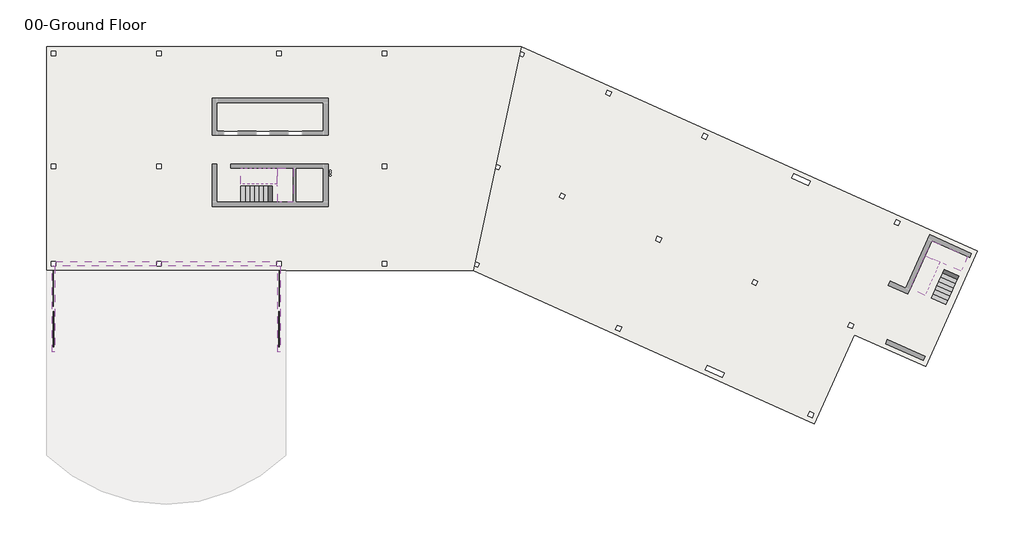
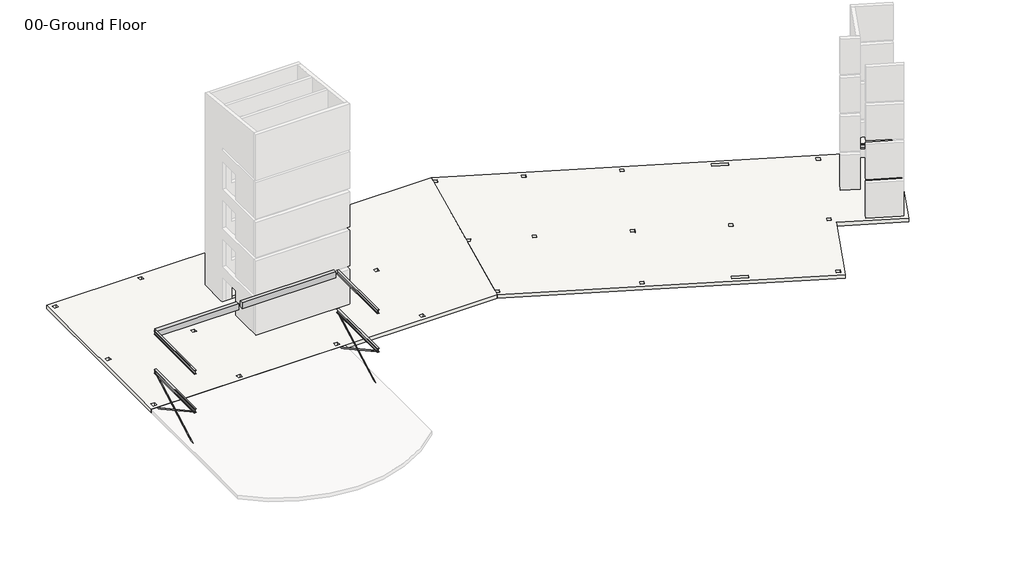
# One storey, part 2 of 2: 6 beams, 4 members, 4 slabs, 4 stair flights.
"""IFC4 building model written with IfcOpenShell, lengths in millimetres."""

from ifc_helpers import new_model, si_unit, frame, origin, place, context, project, spatial, polyline, circle_curve, outline, extrude, faceted_brep, transform, mapped, element, save
from ifc_brep_helpers import plane_surface, revolved_surface, advanced_brep
from components import w_shapes_w12x26_597c9bcb, w_shapes_w12x26_268029d0, flat_bars_fl_3_8x4_f1b121f7, flat_bars_fl_3_8x4_35c656aa, flat_bars_fl_3_8x4_188fb4ee, flat_bars_fl_3_8x4_168c0369

model = new_model("IFC4")

# Units and contexts
model_context = context("Model", 3, world=origin())
ifc_project = project(units=[si_unit("LENGTHUNIT", "METRE", prefix="MILLI")], contexts=[model_context])

# Site, building, storey
site = spatial("IfcSite", under=ifc_project)
building = spatial("IfcBuilding", under=site)
storey = spatial("IfcBuildingStorey", under=building, Name="00-Ground Floor", Elevation=0.0)

# Beams
placement = place(None, origin())
element("IfcBeam", 1, ObjectType="Concrete-Rectangular Beam : 12 x 24", at=placement, inside=storey, context=model_context, shape_type="SweptSolid", body=[
    extrude(outline(polyline([(152.4, -14147.8), (152.4, -13843.0), (6858.0, -13843.0), (6858.0, -14147.8), (152.4, -14147.8)])), frame((0.0, 0.0, 5892.8), z_axis=(0.0, 0.0, 1.0), x_axis=(1.0, 0.0, 0.0)), (0.0, 0.0, 1.0), 508.0),
])
element("IfcBeam", 2, ObjectType="Concrete-Rectangular Beam : 12 x 24", at=placement, inside=storey, context=model_context, shape_type="SweptSolid", body=[
    extrude(outline(polyline([(14846.3, -13843.0), (14846.3, -14147.8), (7162.8, -14147.8), (7162.8, -13843.0), (14846.3, -13843.0)])), frame((0.0, 0.0, 5892.8), z_axis=(0.0, 0.0, 1.0), x_axis=(1.0, 0.0, 0.0)), (0.0, 0.0, 1.0), 508.0),
])
w_shapes_w12x26_shape = w_shapes_w12x26_597c9bcb(model_context)
element("IfcBeam", 3, ObjectType="W Shapes : W12X26", at=placement, inside=storey, context=model_context, shape_type="MappedRepresentation", body=[
    mapped(w_shapes_w12x26_shape, transform((14998.7, -16998.95, 2994.66), x_axis=(0.0, -1.0, 0.0), y_axis=(1.0, 0.0, 0.0), z_axis=(0.0, 0.0, 1.0))),
])
element("IfcBeam", 4, ObjectType="W Shapes : W12X26", at=placement, inside=storey, context=model_context, shape_type="MappedRepresentation", body=[
    mapped(w_shapes_w12x26_shape, transform((14998.7, -16998.95, 6347.46), x_axis=(0.0, -1.0, 0.0), y_axis=(1.0, 0.0, 0.0), z_axis=(0.0, 0.0, 1.0))),
])
w_shapes_w12x26_2_shape = w_shapes_w12x26_268029d0(model_context)
element("IfcBeam", 5, ObjectType="W Shapes : W12X26", at=placement, inside=storey, context=model_context, shape_type="MappedRepresentation", body=[
    mapped(w_shapes_w12x26_2_shape, transform((0.0, -16998.95, 2994.66), x_axis=(0.0, 1.0, 0.0), y_axis=(-1.0, 0.0, 0.0), z_axis=(0.0, 0.0, 1.0))),
])
element("IfcBeam", 6, ObjectType="W Shapes : W12X26", at=placement, inside=storey, context=model_context, shape_type="MappedRepresentation", body=[
    mapped(w_shapes_w12x26_2_shape, transform((0.0, -16998.95, 6347.46), x_axis=(0.0, 1.0, 0.0), y_axis=(-1.0, 0.0, 0.0), z_axis=(0.0, 0.0, 1.0))),
])

# Members
flat_bars_fl_3_8x4_shape = flat_bars_fl_3_8x4_f1b121f7(model_context)
element("IfcMember", 7, ObjectType="Flat Bars : FL 3/8X4", at=placement, inside=storey, context=model_context, shape_type="MappedRepresentation", body=[
    mapped(flat_bars_fl_3_8x4_shape, transform((14998.7, -16998.95, 1344.93), x_axis=(0.0, -0.8764896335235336, 0.48142073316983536), y_axis=(1.0, 0.0, 0.0), z_axis=(0.0, 0.48142073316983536, 0.8764896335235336))),
])
flat_bars_fl_3_8x4_2_shape = flat_bars_fl_3_8x4_35c656aa(model_context)
element("IfcMember", 8, ObjectType="Flat Bars : FL 3/8X4", at=placement, inside=storey, context=model_context, shape_type="MappedRepresentation", body=[
    mapped(flat_bars_fl_3_8x4_2_shape, transform((14989.175, -16998.95, 1344.93), x_axis=(0.0, 0.8764896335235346, 0.4814207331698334), y_axis=(-1.0, 0.0, 0.0), z_axis=(0.0, -0.4814207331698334, 0.8764896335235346))),
])
flat_bars_fl_3_8x4_3_shape = flat_bars_fl_3_8x4_188fb4ee(model_context)
element("IfcMember", 9, ObjectType="Flat Bars : FL 3/8X4", at=placement, inside=storey, context=model_context, shape_type="MappedRepresentation", body=[
    mapped(flat_bars_fl_3_8x4_3_shape, transform((9.525, -16998.95, 1344.93), x_axis=(0.0, 0.8764896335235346, 0.4814207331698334), y_axis=(-1.0, 0.0, 0.0), z_axis=(0.0, -0.4814207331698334, 0.8764896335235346))),
])
flat_bars_fl_3_8x4_4_shape = flat_bars_fl_3_8x4_168c0369(model_context)
element("IfcMember", 10, ObjectType="Flat Bars : FL 3/8X4", at=placement, inside=storey, context=model_context, shape_type="MappedRepresentation", body=[
    mapped(flat_bars_fl_3_8x4_4_shape, transform((0.0, -16998.95, 1344.93), x_axis=(0.0, -0.8764896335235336, 0.48142073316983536), y_axis=(1.0, 0.0, 0.0), z_axis=(0.0, 0.48142073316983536, 0.8764896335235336))),
])

# Slabs
element("IfcSlab", 11, ObjectType="7\" Thickness", at=placement, inside=storey, context=model_context, shape_type="Brep", body=[
    faceted_brep([(14884.4, -8826.5, 1775.0117647), (14903.45, -8826.5, 1775.0117647), (14903.45, -9893.3, 1775.0117647), (15167.2458186, -9893.3, 1775.0117647), (15951.2, -9893.3, 1775.0117647), (15951.2, -7633.3081651, 1775.0117647), (14906.3541814, -7633.3081651, 1775.0117647), (14884.4, -7633.3081651, 1775.0117647), (14865.35, -7633.3081651, 1775.0117647), (14865.35, -8700.1081651, 1775.0117647), (14884.4, -8700.1081651, 1775.0117647), (14884.4, -8826.5, 1597.2117647), (14903.45, -8826.5, 1597.2117647), (14903.45, -8826.5, 1577.7882353), (14903.45, -8826.5, 1426.5203527), (14903.45, -9893.3, 1426.5203527), (14903.45, -9893.3, 1577.7882353), (15167.2458186, -9893.3, 1597.2117647), (15951.2, -9893.3, 1597.2117647), (15951.2, -7633.3081651, 1597.2117647), (14906.3541814, -7633.3081651, 1597.2117647), (14884.4, -7633.3081651, 1611.4174115), (14865.35, -7633.3081651, 1623.7438821), (14865.35, -8700.1081651, 1623.7438821), (14884.4, -8700.1081651, 1611.4174115), (14884.4, -8700.1081651, 1597.2117647), (14906.3541814, -8700.1081651, 1597.2117647), (15167.2458186, -8826.5, 1597.2117647)], [[[0, 1, 2, 3, 4, 5, 6, 7, 8, 9, 10]], [[1, 0, 11, 12]], [[2, 1, 12, 13, 14, 15, 16]], [[2, 16, 15, 17, 18, 4, 3]], [[5, 4, 18, 19]], [[5, 19, 20, 21, 7, 6]], [[8, 7, 21, 22]], [[9, 8, 22, 23]], [[10, 9, 23, 24]], [[0, 10, 24, 25, 11]], [[25, 26, 20, 19, 18, 17, 27, 12, 11]], [[26, 25, 24]], [[27, 17, 15, 14]], [[12, 27, 14, 13]], [[20, 26, 24, 23, 22, 21]]]),
])
element("IfcSlab", 12, ObjectType="7\" Thickness", at=placement, inside=storey, context=model_context, shape_type="Brep", body=[
    faceted_brep([(59335.95414, -14064.6614634, 1775.0117647), (59343.7599937, -14047.2841463, 1775.0117647), (60316.8897498, -14484.4119512, 1775.0117647), (60424.981695, -14243.7786923, 1775.0117647), (60746.211701, -13528.6595122, 1775.0117647), (58382.896579, -12467.0634146, 1775.0117647), (57954.7646338, -13420.1666736, 1775.0117647), (57945.7687742, -13440.1931707, 1775.0117647), (57937.9629205, -13457.5704878, 1775.0117647), (58911.0926766, -13894.6982927, 1775.0117647), (58918.8985303, -13877.3209756, 1775.0117647), (59335.95414, -14064.6614634, 1597.2117647), (59343.7599937, -14047.2841463, 1597.2117647), (59343.7599937, -14047.2841463, 1577.7882353), (59343.7599937, -14047.2841463, 1426.5203527), (60316.8897498, -14484.4119512, 1426.5203527), (60316.8897498, -14484.4119512, 1577.7882353), (60424.981695, -14243.7786923, 1597.2117647), (60746.211701, -13528.6595122, 1597.2117647), (58382.896579, -12467.0634146, 1597.2117647), (57954.7646338, -13420.1666736, 1597.2117647), (57945.7687742, -13440.1931707, 1611.4174115), (57937.9629205, -13457.5704878, 1623.7438821), (58911.0926766, -13894.6982927, 1623.7438821), (58918.8985303, -13877.3209756, 1611.4174115), (58918.8985303, -13877.3209756, 1597.2117647), (58927.8943899, -13857.2944785, 1597.2117647), (59451.8519389, -13806.6508874, 1597.2117647)], [[[0, 1, 2, 3, 4, 5, 6, 7, 8, 9, 10]], [[1, 0, 11, 12]], [[2, 1, 12, 13, 14, 15, 16]], [[2, 16, 15, 17, 18, 4, 3]], [[5, 4, 18, 19]], [[5, 19, 20, 21, 7, 6]], [[8, 7, 21, 22]], [[9, 8, 22, 23]], [[10, 9, 23, 24]], [[0, 10, 24, 25, 11]], [[25, 26, 20, 19, 18, 17, 27, 12, 11]], [[26, 25, 24]], [[27, 17, 15, 14]], [[12, 27, 14, 13]], [[20, 26, 24, 23, 22, 21]]]),
])
element("IfcSlab", 13, ObjectType="RC Slab 12\"", at=placement, inside=storey, context=model_context, shape_type="SolidModel", body=[
    faceted_brep([(10858.5, -3289.3, -304.8), (12738.1, -3289.3, -304.8), (12992.1, -3289.3, -304.8), (14871.7, -3289.3, -304.8), (15125.7, -3289.3, -304.8), (17945.1, -3289.3, -304.8), (17945.1, -5168.9, -304.8), (15125.7, -5168.9, -304.8), (14871.7, -5168.9, -304.8), (12992.1, -5168.9, -304.8), (12738.1, -5168.9, -304.8), (10858.5, -5168.9, -304.8), (17945.1, -3289.3, 0.0), (15125.7, -3289.3, 0.0), (14871.7, -3289.3, 0.0), (12992.1, -3289.3, 0.0), (12738.1, -3289.3, 0.0), (10858.5, -3289.3, 0.0), (10858.5, -5168.9, 0.0), (12738.1, -5168.9, 0.0), (12992.1, -5168.9, 0.0), (14871.7, -5168.9, 0.0), (15125.7, -5168.9, 0.0), (17945.1, -5168.9, 0.0)], [[[0, 1, 2, 3, 4, 5, 6, 7, 8, 9, 10, 11]], [[12, 13, 14, 15, 16, 17, 18, 19, 20, 21, 22, 23]], [[5, 4, 3, 2, 1, 0, 17, 16, 15, 14, 13, 12]], [[0, 11, 18, 17]], [[6, 23, 22, 21, 20, 19, 18, 11, 10, 9, 8, 7]], [[6, 5, 12, 23]]]),
    advanced_brep(
    [(-457.2, 457.2, -304.8), (7010.4, 457.2, -304.8), (14998.7, 457.2, -304.8), (22009.1, 457.2, -304.8), (31098.7387393, 457.2, -304.8), (30902.7958822, -457.2, -304.8), (28099.7244536, -13538.2, -304.8), (27903.7815965, -14452.6, -304.8), (22009.1, -14452.6, -304.8), (15455.9, -14452.6, -304.8), (-457.2, -14452.6, -304.8), (-457.2, -13995.4, -304.8), (-457.2, -7505.7, -304.8), (18347.8020543, -8109.4381113, -304.8), (18449.4020543, -8109.4381113, -304.8), (18347.8020543, -7957.0381113, -304.8), (18449.4020543, -7957.0381113, -304.8), (18347.8020543, -7804.6381113, -304.8), (18449.4020543, -7804.6381113, -304.8), (152.4, -152.4, -304.8), (152.4, 152.4, -304.8), (-152.4, 152.4, -304.8), (-152.4, -152.4, -304.8), (7162.8, -152.4, -304.8), (7162.8, 152.4, -304.8), (6858.0, 152.4, -304.8), (6858.0, -152.4, -304.8), (15151.1, -152.4, -304.8), (15151.1, 152.4, -304.8), (14846.3, 152.4, -304.8), (14846.3, -152.4, -304.8), (22161.5, -152.4, -304.8), (22161.5, 152.4, -304.8), (21856.7, 152.4, -304.8), (21856.7, -152.4, -304.8), (22161.5, -7658.1, -304.8), (22161.5, -7353.3, -304.8), (21856.7, -7353.3, -304.8), (21856.7, -7658.1, -304.8), (7162.8, -7658.1, -304.8), (7162.8, -7353.3, -304.8), (6858.0, -7353.3, -304.8), (6858.0, -7658.1, -304.8), (152.4, -7658.1, -304.8), (152.4, -7353.3, -304.8), (-152.4, -7353.3, -304.8), (-152.4, -7658.1, -304.8), (152.4, -14147.8, -304.8), (152.4, -13843.0, -304.8), (-152.4, -13843.0, -304.8), (-152.4, -14147.8, -304.8), (15151.1, -14147.8, -304.8), (15151.1, -13843.0, -304.8), (14846.3, -13843.0, -304.8), (14846.3, -14147.8, -304.8), (22161.5, -14147.8, -304.8), (22161.5, -13843.0, -304.8), (21856.7, -13843.0, -304.8), (21856.7, -14147.8, -304.8), (7162.8, -14147.8, -304.8), (7162.8, -13843.0, -304.8), (6858.0, -13843.0, -304.8), (6858.0, -14147.8, -304.8), (10553.7, -5422.9, -304.8), (18249.9, -5422.9, -304.8), (18249.9, -2984.5, -304.8), (15252.7, -2984.5, -304.8), (14744.7, -2984.5, -304.8), (10553.7, -2984.5, -304.8), (31098.7387393, 457.2, 0.0), (-457.2, 457.2, 0.0), (-457.2, -14452.6, 0.0), (15455.9, -14452.6, 0.0), (27903.7815965, -14452.6, 0.0), (18449.4020543, -8109.4381113, 0.0), (18347.8020543, -8109.4381113, 0.0), (18449.4020543, -7957.0381113, 0.0), (18347.8020543, -7957.0381113, 0.0), (18449.4020543, -7804.6381113, 0.0), (18347.8020543, -7804.6381113, 0.0), (18249.9, -2984.5, 0.0), (18249.9, -3289.3, 0.0), (18249.9, -5422.9, 0.0), (17945.1, -5422.9, 0.0), (10553.7, -5422.9, 0.0), (10553.7, -5168.9, 0.0), (10553.7, -2984.5, 0.0), (10858.5, -2984.5, 0.0), (152.4, 152.4, 0.0), (152.4, -152.4, 0.0), (-152.4, -152.4, 0.0), (-152.4, 152.4, 0.0), (7162.8, 152.4, 0.0), (7162.8, -152.4, 0.0), (6858.0, -152.4, 0.0), (6858.0, 152.4, 0.0), (15151.1, 152.4, 0.0), (15151.1, -152.4, 0.0), (14846.3, -152.4, 0.0), (14846.3, 152.4, 0.0), (22161.5, 152.4, 0.0), (22161.5, -152.4, 0.0), (21856.7, -152.4, 0.0), (21856.7, 152.4, 0.0), (22161.5, -7353.3, 0.0), (22161.5, -7658.1, 0.0), (21856.7, -7658.1, 0.0), (21856.7, -7353.3, 0.0), (7162.8, -7353.3, 0.0), (7162.8, -7658.1, 0.0), (6858.0, -7658.1, 0.0), (6858.0, -7353.3, 0.0), (152.4, -7353.3, 0.0), (152.4, -7658.1, 0.0), (-152.4, -7658.1, 0.0), (-152.4, -7353.3, 0.0), (152.4, -13843.0, 0.0), (152.4, -14147.8, 0.0), (-152.4, -14147.8, 0.0), (-152.4, -13843.0, 0.0), (15151.1, -13843.0, 0.0), (15151.1, -14147.8, 0.0), (14846.3, -14147.8, 0.0), (14846.3, -13843.0, 0.0), (22161.5, -13843.0, 0.0), (22161.5, -14147.8, 0.0), (21856.7, -14147.8, 0.0), (21856.7, -13843.0, 0.0), (7162.8, -13843.0, 0.0), (7162.8, -14147.8, 0.0), (6858.0, -14147.8, 0.0), (6858.0, -13843.0, 0.0)],
    [
        (0, 1),
        (1, 2),
        (2, 3),
        (3, 4),
        (4, 5),
        (5, 6),
        (6, 7),
        (7, 8),
        (8, 9),
        (9, 10),
        (10, 11),
        (11, 12),
        (12, 0),
        (13, 14, circle_curve(frame((18398.6020543, -8109.4381113, -304.8), z_axis=(0.0, 0.0, 1.0), x_axis=(1.0, 0.0, 0.0)), 50.8)),
        (14, 13, circle_curve(frame((18398.6020543, -8109.4381113, -304.8), z_axis=(0.0, 0.0, 1.0), x_axis=(1.0, 0.0, 0.0)), 50.8)),
        (15, 16, circle_curve(frame((18398.6020543, -7957.0381113, -304.8), z_axis=(0.0, 0.0, 1.0), x_axis=(1.0, 0.0, 0.0)), 50.8)),
        (16, 15, circle_curve(frame((18398.6020543, -7957.0381113, -304.8), z_axis=(0.0, 0.0, 1.0), x_axis=(1.0, 0.0, 0.0)), 50.8)),
        (17, 18, circle_curve(frame((18398.6020543, -7804.6381113, -304.8), z_axis=(0.0, 0.0, 1.0), x_axis=(1.0, 0.0, 0.0)), 50.8)),
        (18, 17, circle_curve(frame((18398.6020543, -7804.6381113, -304.8), z_axis=(0.0, 0.0, 1.0), x_axis=(1.0, 0.0, 0.0)), 50.8)),
        (19, 20),
        (20, 21),
        (21, 22),
        (22, 19),
        (23, 24),
        (24, 25),
        (25, 26),
        (26, 23),
        (27, 28),
        (28, 29),
        (29, 30),
        (30, 27),
        (31, 32),
        (32, 33),
        (33, 34),
        (34, 31),
        (35, 36),
        (36, 37),
        (37, 38),
        (38, 35),
        (39, 40),
        (40, 41),
        (41, 42),
        (42, 39),
        (43, 44),
        (44, 45),
        (45, 46),
        (46, 43),
        (47, 48),
        (48, 49),
        (49, 50),
        (50, 47),
        (51, 52),
        (52, 53),
        (53, 54),
        (54, 51),
        (55, 56),
        (56, 57),
        (57, 58),
        (58, 55),
        (59, 60),
        (60, 61),
        (61, 62),
        (62, 59),
        (63, 64),
        (64, 65),
        (65, 66),
        (66, 67),
        (67, 68),
        (68, 63),
        (69, 70),
        (70, 71),
        (71, 72),
        (72, 73),
        (73, 69),
        (74, 75, circle_curve(frame((18398.6020543, -8109.4381113, 0.0), z_axis=(0.0, 0.0, -1.0), x_axis=(1.0, 0.0, 0.0)), 50.8)),
        (75, 74, circle_curve(frame((18398.6020543, -8109.4381113, 0.0), z_axis=(0.0, 0.0, -1.0), x_axis=(1.0, 0.0, 0.0)), 50.8)),
        (76, 77, circle_curve(frame((18398.6020543, -7957.0381113, 0.0), z_axis=(0.0, 0.0, -1.0), x_axis=(1.0, 0.0, 0.0)), 50.8)),
        (77, 76, circle_curve(frame((18398.6020543, -7957.0381113, 0.0), z_axis=(0.0, 0.0, -1.0), x_axis=(1.0, 0.0, 0.0)), 50.8)),
        (78, 79, circle_curve(frame((18398.6020543, -7804.6381113, 0.0), z_axis=(0.0, 0.0, -1.0), x_axis=(1.0, 0.0, 0.0)), 50.8)),
        (79, 78, circle_curve(frame((18398.6020543, -7804.6381113, 0.0), z_axis=(0.0, 0.0, -1.0), x_axis=(1.0, 0.0, 0.0)), 50.8)),
        (80, 81),
        (81, 82),
        (82, 83),
        (83, 84),
        (84, 85),
        (85, 86),
        (86, 87),
        (87, 80),
        (88, 89),
        (89, 90),
        (90, 91),
        (91, 88),
        (92, 93),
        (93, 94),
        (94, 95),
        (95, 92),
        (96, 97),
        (97, 98),
        (98, 99),
        (99, 96),
        (100, 101),
        (101, 102),
        (102, 103),
        (103, 100),
        (104, 105),
        (105, 106),
        (106, 107),
        (107, 104),
        (108, 109),
        (109, 110),
        (110, 111),
        (111, 108),
        (112, 113),
        (113, 114),
        (114, 115),
        (115, 112),
        (116, 117),
        (117, 118),
        (118, 119),
        (119, 116),
        (120, 121),
        (121, 122),
        (122, 123),
        (123, 120),
        (124, 125),
        (125, 126),
        (126, 127),
        (127, 124),
        (128, 129),
        (129, 130),
        (130, 131),
        (131, 128),
        (0, 70),
        (69, 4),
        (73, 7),
        (71, 10),
        (13, 75),
        (74, 14),
        (15, 77),
        (76, 16),
        (17, 79),
        (78, 18),
        (65, 80),
        (86, 68),
        (64, 82),
        (84, 63),
        (19, 89),
        (88, 20),
        (22, 90),
        (21, 91),
        (23, 93),
        (92, 24),
        (26, 94),
        (25, 95),
        (27, 97),
        (96, 28),
        (30, 98),
        (29, 99),
        (31, 101),
        (100, 32),
        (34, 102),
        (33, 103),
        (35, 105),
        (104, 36),
        (38, 106),
        (37, 107),
        (39, 109),
        (108, 40),
        (42, 110),
        (41, 111),
        (43, 113),
        (112, 44),
        (46, 114),
        (45, 115),
        (47, 117),
        (116, 48),
        (50, 118),
        (49, 119),
        (51, 121),
        (120, 52),
        (54, 122),
        (53, 123),
        (55, 125),
        (124, 56),
        (58, 126),
        (57, 127),
        (59, 129),
        (128, 60),
        (62, 130),
        (61, 131),
    ],
    [
        plane_surface(frame((0.0, 457.2, -304.8), z_axis=(0.0, 0.0, -1.0), x_axis=(1.0, 0.0, 0.0))),
        plane_surface(frame((0.0, 457.2, 0.0), z_axis=(0.0, 0.0, 1.0), x_axis=(-1.0, 0.0, 0.0))),
        plane_surface(frame((-457.2, 457.2, -304.8), z_axis=(0.0, 1.0, 0.0), x_axis=(0.0, 0.0, 1.0))),
        plane_surface(frame((31098.7387393, 457.2, -304.8), z_axis=(0.9778024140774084, -0.2095290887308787, 0.0), x_axis=(0.0, 0.0, 1.0))),
        plane_surface(frame((27903.7815965, -14452.6, -304.8), z_axis=(0.0, -1.0, 0.0), x_axis=(0.0, 0.0, 1.0))),
        plane_surface(frame((-457.2, -14452.6, -304.8), z_axis=(-1.0, 0.0, 0.0), x_axis=(0.0, 0.0, 1.0))),
        revolved_surface(polyline([(18449.4020543, -8109.4381113, 0.0), (18449.4020543, -8109.4381113, -304.8)]), (18398.6020543, -8109.4381113, -609.6), (0.0, 0.0, 1.0)),
        revolved_surface(polyline([(18449.4020543, -7957.0381113, 0.0), (18449.4020543, -7957.0381113, -304.8)]), (18398.6020543, -7957.0381113, -609.6), (0.0, 0.0, 1.0)),
        revolved_surface(polyline([(18449.4020543, -7804.6381113, 0.0), (18449.4020543, -7804.6381113, -304.8)]), (18398.6020543, -7804.6381113, -609.6), (0.0, 0.0, 1.0)),
        plane_surface(frame((17694.8895727, -2984.5, -2133.6), z_axis=(0.0, -1.0, 0.0), x_axis=(-1.0, 0.0, 0.0))),
        plane_surface(frame((18249.9, -6083.3, -2133.6), z_axis=(-1.0, 0.0, 0.0), x_axis=(0.0, 1.0, 0.0))),
        plane_surface(frame((10553.7, -5829.3, -2133.6), z_axis=(1.0, 0.0, 0.0), x_axis=(0.0, -1.0, 0.0))),
        plane_surface(frame((10706.1, -5422.9, -2133.6), z_axis=(0.0, 1.0, 0.0), x_axis=(1.0, 0.0, 0.0))),
        plane_surface(frame((152.4, -152.4, 10058.4), z_axis=(-1.0, 0.0, 0.0), x_axis=(0.0, 0.0, -1.0))),
        plane_surface(frame((-152.4, -152.4, 10058.4), z_axis=(0.0, 1.0, 0.0), x_axis=(0.0, 0.0, -1.0))),
        plane_surface(frame((-152.4, 152.4, 10058.4), z_axis=(1.0, 0.0, 0.0), x_axis=(0.0, 0.0, -1.0))),
        plane_surface(frame((152.4, 152.4, 10058.4), z_axis=(0.0, -1.0, 0.0), x_axis=(0.0, 0.0, -1.0))),
        plane_surface(frame((7162.8, -152.4, 10058.4), z_axis=(-1.0, 0.0, 0.0), x_axis=(0.0, 0.0, -1.0))),
        plane_surface(frame((6858.0, -152.4, 10058.4), z_axis=(0.0, 1.0, 0.0), x_axis=(0.0, 0.0, -1.0))),
        plane_surface(frame((6858.0, 152.4, 10058.4), z_axis=(1.0, 0.0, 0.0), x_axis=(0.0, 0.0, -1.0))),
        plane_surface(frame((7162.8, 152.4, 10058.4), z_axis=(0.0, -1.0, 0.0), x_axis=(0.0, 0.0, -1.0))),
        plane_surface(frame((15151.1, -152.4, 10058.4), z_axis=(-1.0, 0.0, 0.0), x_axis=(0.0, 0.0, -1.0))),
        plane_surface(frame((14846.3, -152.4, 10058.4), z_axis=(0.0, 1.0, 0.0), x_axis=(0.0, 0.0, -1.0))),
        plane_surface(frame((14846.3, 152.4, 10058.4), z_axis=(1.0, 0.0, 0.0), x_axis=(0.0, 0.0, -1.0))),
        plane_surface(frame((15151.1, 152.4, 10058.4), z_axis=(0.0, -1.0, 0.0), x_axis=(0.0, 0.0, -1.0))),
        plane_surface(frame((22161.5, -152.4, 10058.4), z_axis=(-1.0, 0.0, 0.0), x_axis=(0.0, 0.0, -1.0))),
        plane_surface(frame((21856.7, -152.4, 10058.4), z_axis=(0.0, 1.0, 0.0), x_axis=(0.0, 0.0, -1.0))),
        plane_surface(frame((21856.7, 152.4, 10058.4), z_axis=(1.0, 0.0, 0.0), x_axis=(0.0, 0.0, -1.0))),
        plane_surface(frame((22161.5, 152.4, 10058.4), z_axis=(0.0, -1.0, 0.0), x_axis=(0.0, 0.0, -1.0))),
        plane_surface(frame((22161.5, -7658.1, 10058.4), z_axis=(-1.0, 0.0, 0.0), x_axis=(0.0, 0.0, -1.0))),
        plane_surface(frame((21856.7, -7658.1, 10058.4), z_axis=(0.0, 1.0, 0.0), x_axis=(0.0, 0.0, -1.0))),
        plane_surface(frame((21856.7, -7353.3, 10058.4), z_axis=(1.0, 0.0, 0.0), x_axis=(0.0, 0.0, -1.0))),
        plane_surface(frame((22161.5, -7353.3, 10058.4), z_axis=(0.0, -1.0, 0.0), x_axis=(0.0, 0.0, -1.0))),
        plane_surface(frame((7162.8, -7658.1, 10058.4), z_axis=(-1.0, 0.0, 0.0), x_axis=(0.0, 0.0, -1.0))),
        plane_surface(frame((6858.0, -7658.1, 10058.4), z_axis=(0.0, 1.0, 0.0), x_axis=(0.0, 0.0, -1.0))),
        plane_surface(frame((6858.0, -7353.3, 10058.4), z_axis=(1.0, 0.0, 0.0), x_axis=(0.0, 0.0, -1.0))),
        plane_surface(frame((7162.8, -7353.3, 10058.4), z_axis=(0.0, -1.0, 0.0), x_axis=(0.0, 0.0, -1.0))),
        plane_surface(frame((152.4, -7658.1, 10058.4), z_axis=(-1.0, 0.0, 0.0), x_axis=(0.0, 0.0, -1.0))),
        plane_surface(frame((-152.4, -7658.1, 10058.4), z_axis=(0.0, 1.0, 0.0), x_axis=(0.0, 0.0, -1.0))),
        plane_surface(frame((-152.4, -7353.3, 10058.4), z_axis=(1.0, 0.0, 0.0), x_axis=(0.0, 0.0, -1.0))),
        plane_surface(frame((152.4, -7353.3, 10058.4), z_axis=(0.0, -1.0, 0.0), x_axis=(0.0, 0.0, -1.0))),
        plane_surface(frame((152.4, -14147.8, 10058.4), z_axis=(-1.0, 0.0, 0.0), x_axis=(0.0, 0.0, -1.0))),
        plane_surface(frame((-152.4, -14147.8, 10058.4), z_axis=(0.0, 1.0, 0.0), x_axis=(0.0, 0.0, -1.0))),
        plane_surface(frame((-152.4, -13843.0, 10058.4), z_axis=(1.0, 0.0, 0.0), x_axis=(0.0, 0.0, -1.0))),
        plane_surface(frame((152.4, -13843.0, 10058.4), z_axis=(0.0, -1.0, 0.0), x_axis=(0.0, 0.0, -1.0))),
        plane_surface(frame((15151.1, -14147.8, 10058.4), z_axis=(-1.0, 0.0, 0.0), x_axis=(0.0, 0.0, -1.0))),
        plane_surface(frame((14846.3, -14147.8, 10058.4), z_axis=(0.0, 1.0, 0.0), x_axis=(0.0, 0.0, -1.0))),
        plane_surface(frame((14846.3, -13843.0, 10058.4), z_axis=(1.0, 0.0, 0.0), x_axis=(0.0, 0.0, -1.0))),
        plane_surface(frame((15151.1, -13843.0, 10058.4), z_axis=(0.0, -1.0, 0.0), x_axis=(0.0, 0.0, -1.0))),
        plane_surface(frame((22161.5, -14147.8, 10058.4), z_axis=(-1.0, 0.0, 0.0), x_axis=(0.0, 0.0, -1.0))),
        plane_surface(frame((21856.7, -14147.8, 10058.4), z_axis=(0.0, 1.0, 0.0), x_axis=(0.0, 0.0, -1.0))),
        plane_surface(frame((21856.7, -13843.0, 10058.4), z_axis=(1.0, 0.0, 0.0), x_axis=(0.0, 0.0, -1.0))),
        plane_surface(frame((22161.5, -13843.0, 10058.4), z_axis=(0.0, -1.0, 0.0), x_axis=(0.0, 0.0, -1.0))),
        plane_surface(frame((7162.8, -14147.8, 10058.4), z_axis=(-1.0, 0.0, 0.0), x_axis=(0.0, 0.0, -1.0))),
        plane_surface(frame((6858.0, -14147.8, 10058.4), z_axis=(0.0, 1.0, 0.0), x_axis=(0.0, 0.0, -1.0))),
        plane_surface(frame((6858.0, -13843.0, 10058.4), z_axis=(1.0, 0.0, 0.0), x_axis=(0.0, 0.0, -1.0))),
        plane_surface(frame((7162.8, -13843.0, 10058.4), z_axis=(0.0, -1.0, 0.0), x_axis=(0.0, 0.0, -1.0))),
    ],
    [
        (0, [[1, 2, 3, 4, 5, 6, 7, 8, 9, 10, 11, 12, 13], [14, 15], [16, 17], [18, 19], [20, 21, 22, 23], [24, 25, 26, 27], [28, 29, 30, 31], [32, 33, 34, 35], [36, 37, 38, 39], [40, 41, 42, 43], [44, 45, 46, 47], [48, 49, 50, 51], [52, 53, 54, 55], [56, 57, 58, 59], [60, 61, 62, 63], [64, 65, 66, 67, 68, 69]]),
        (1, [[70, 71, 72, 73, 74], [75, 76], [77, 78], [79, 80], [81, 82, 83, 84, 85, 86, 87, 88], [89, 90, 91, 92], [93, 94, 95, 96], [97, 98, 99, 100], [101, 102, 103, 104], [105, 106, 107, 108], [109, 110, 111, 112], [113, 114, 115, 116], [117, 118, 119, 120], [121, 122, 123, 124], [125, 126, 127, 128], [129, 130, 131, 132]]),
        (2, [[-4, -3, -2, -1, 133, -70, 134]]),
        (3, [[-7, -6, -5, -134, -74, 135]]),
        (4, [[-10, -9, -8, -135, -73, -72, 136]]),
        (5, [[-13, -12, -11, -136, -71, -133]]),
        (6, [[137, -75, 138, -14]]),
        (6, [[-137, -15, -138, -76]]),
        (7, [[139, -77, 140, -16]]),
        (7, [[-139, -17, -140, -78]]),
        (8, [[141, -79, 142, -18]]),
        (8, [[-141, -19, -142, -80]]),
        (9, [[143, -88, -87, 144, -68, -67, -66]]),
        (10, [[-143, -65, 145, -82, -81]]),
        (11, [[-144, -86, -85, 146, -69]]),
        (12, [[-146, -84, -83, -145, -64]]),
        (13, [[147, -89, 148, -20]]),
        (14, [[-147, -23, 149, -90]]),
        (15, [[-149, -22, 150, -91]]),
        (16, [[-150, -21, -148, -92]]),
        (17, [[151, -93, 152, -24]]),
        (18, [[-151, -27, 153, -94]]),
        (19, [[-153, -26, 154, -95]]),
        (20, [[-154, -25, -152, -96]]),
        (21, [[155, -97, 156, -28]]),
        (22, [[-155, -31, 157, -98]]),
        (23, [[-157, -30, 158, -99]]),
        (24, [[-158, -29, -156, -100]]),
        (25, [[159, -101, 160, -32]]),
        (26, [[-159, -35, 161, -102]]),
        (27, [[-161, -34, 162, -103]]),
        (28, [[-162, -33, -160, -104]]),
        (29, [[163, -105, 164, -36]]),
        (30, [[-163, -39, 165, -106]]),
        (31, [[-165, -38, 166, -107]]),
        (32, [[-166, -37, -164, -108]]),
        (33, [[167, -109, 168, -40]]),
        (34, [[-167, -43, 169, -110]]),
        (35, [[-169, -42, 170, -111]]),
        (36, [[-170, -41, -168, -112]]),
        (37, [[171, -113, 172, -44]]),
        (38, [[-171, -47, 173, -114]]),
        (39, [[-173, -46, 174, -115]]),
        (40, [[-174, -45, -172, -116]]),
        (41, [[175, -117, 176, -48]]),
        (42, [[-175, -51, 177, -118]]),
        (43, [[-177, -50, 178, -119]]),
        (44, [[-178, -49, -176, -120]]),
        (45, [[179, -121, 180, -52]]),
        (46, [[-179, -55, 181, -122]]),
        (47, [[-181, -54, 182, -123]]),
        (48, [[-182, -53, -180, -124]]),
        (49, [[183, -125, 184, -56]]),
        (50, [[-183, -59, 185, -126]]),
        (51, [[-185, -58, 186, -127]]),
        (52, [[-186, -57, -184, -128]]),
        (53, [[187, -129, 188, -60]]),
        (54, [[-187, -63, 189, -130]]),
        (55, [[-189, -62, 190, -131]]),
        (56, [[-190, -61, -188, -132]]),
    ],
),
])
element("IfcSlab", 14, ObjectType="RC Slab 12\"", at=placement, inside=storey, context=model_context, shape_type="Brep", body=[
    faceted_brep([(61413.0546278, -13159.9258537, -304.8), (57962.8673107, -20840.7, -304.8), (53236.2370668, -18717.5078049, -304.8), (50577.0429205, -24637.3804878, -304.8), (37370.2819449, -18704.9317073, -304.8), (27903.7815965, -14452.6, -304.8), (27969.0988162, -14147.786308, -304.8), (28217.3432689, -14259.3121951, -304.8), (28342.2369275, -13981.275122, -304.8), (28034.4045592, -13843.0124873, -304.8), (28099.7244536, -13538.2, -304.8), (29359.7488162, -7658.086308, -304.8), (29607.9932689, -7769.6121951, -304.8), (29732.8869275, -7491.575122, -304.8), (29425.0545592, -7353.3124873, -304.8), (30902.7958822, -457.2, -304.8), (30968.1131019, -152.386308, -304.8), (31216.3575546, -263.9121951, -304.8), (31341.2512132, 14.124878, -304.8), (31033.4188449, 152.3875127, -304.8), (31098.7387393, 457.2, -304.8), (43479.6634083, -5104.284878, -304.8), (37098.9356034, -2572.2146341, -304.8), (36820.8985303, -2447.3209756, -304.8), (36696.0048717, -2725.3580488, -304.8), (36974.0419449, -2850.2517073, -304.8), (43493.7882864, -5444.7687805, -304.8), (43215.7512132, -5319.875122, -304.8), (43090.8575546, -5597.9121951, -304.8), (43368.8946278, -5722.8058537, -304.8), (56283.4936522, -11189.8770732, -304.8), (56005.456579, -11064.9834146, -304.8), (55880.5629205, -11343.0204878, -304.8), (56158.5999937, -11467.9141463, -304.8), (53207.9873107, -18036.54, -304.8), (52929.9502376, -17911.6463415, -304.8), (52805.056579, -18189.6834146, -304.8), (53083.0936522, -18314.5770732, -304.8), (50548.7931644, -23956.4126829, -304.8), (50270.7560912, -23831.5190244, -304.8), (50145.8624327, -24109.5560976, -304.8), (50423.8995059, -24234.4497561, -304.8), (37759.0877985, -18211.3043902, -304.8), (37481.0507254, -18086.4107317, -304.8), (37356.1570668, -18364.4478049, -304.8), (37634.19414, -18489.3414634, -304.8), (34023.429262, -9418.877561, -304.8), (33745.3921888, -9293.9839024, -304.8), (33620.4985303, -9572.0209756, -304.8), (33898.5356034, -9696.9146341, -304.8), (40418.2819449, -12291.4317073, -304.8), (40140.2448717, -12166.5380488, -304.8), (40015.3512132, -12444.575122, -304.8), (40293.3882864, -12569.4687805, -304.8), (46813.1346278, -15163.9858537, -304.8), (46535.0975546, -15039.0921951, -304.8), (46410.2038961, -15317.1292683, -304.8), (46688.2409693, -15442.0229268, -304.8), (43333.95414, -21049.6614634, -304.8), (44446.1024327, -21549.2360976, -304.8), (44570.9960912, -21271.1990244, -304.8), (43458.8477985, -20771.6243902, -304.8), (49068.6546278, -8283.1258537, -304.8), (50180.8029205, -8782.7004878, -304.8), (50305.696579, -8504.6634146, -304.8), (49193.5482864, -8005.0887805, -304.8), (57962.8673107, -20840.7, 0.0), (61413.0546278, -13159.9258537, 0.0), (31098.7387393, 457.2, 0.0), (31033.4244536, 152.4, 0.0), (31341.2512132, 14.124878, 0.0), (31216.3575546, -263.9121951, 0.0), (30968.1131019, -152.386308, 0.0), (29425.0601679, -7353.3, 0.0), (29732.8869275, -7491.575122, 0.0), (29607.9932689, -7769.6121951, 0.0), (29359.7488162, -7658.086308, 0.0), (28034.4101679, -13843.0, 0.0), (28342.2369275, -13981.275122, 0.0), (28217.3432689, -14259.3121951, 0.0), (27969.0988162, -14147.786308, 0.0), (27903.7815965, -14452.6, 0.0), (50577.0429205, -24637.3804878, 0.0), (53236.2370668, -18717.5078049, 0.0), (36820.8985303, -2447.3209756, 0.0), (37098.9356034, -2572.2146341, 0.0), (36974.0419449, -2850.2517073, 0.0), (36696.0048717, -2725.3580488, 0.0), (43215.7512132, -5319.875122, 0.0), (43493.7882864, -5444.7687805, 0.0), (43368.8946278, -5722.8058537, 0.0), (43090.8575546, -5597.9121951, 0.0), (56005.456579, -11064.9834146, 0.0), (56283.4936522, -11189.8770732, 0.0), (56158.5999937, -11467.9141463, 0.0), (55880.5629205, -11343.0204878, 0.0), (52929.9502376, -17911.6463415, 0.0), (53207.9873107, -18036.54, 0.0), (53083.0936522, -18314.5770732, 0.0), (52805.056579, -18189.6834146, 0.0), (50270.7560912, -23831.5190244, 0.0), (50548.7931644, -23956.4126829, 0.0), (50423.8995059, -24234.4497561, 0.0), (50145.8624327, -24109.5560976, 0.0), (37481.0507254, -18086.4107317, 0.0), (37759.0877985, -18211.3043902, 0.0), (37634.19414, -18489.3414634, 0.0), (37356.1570668, -18364.4478049, 0.0), (33745.3921888, -9293.9839024, 0.0), (34023.429262, -9418.877561, 0.0), (33898.5356034, -9696.9146341, 0.0), (33620.4985303, -9572.0209756, 0.0), (40140.2448717, -12166.5380488, 0.0), (40418.2819449, -12291.4317073, 0.0), (40293.3882864, -12569.4687805, 0.0), (40015.3512132, -12444.575122, 0.0), (46535.0975546, -15039.0921951, 0.0), (46813.1346278, -15163.9858537, 0.0), (46688.2409693, -15442.0229268, 0.0), (46410.2038961, -15317.1292683, 0.0), (44446.1024327, -21549.2360976, 0.0), (43333.95414, -21049.6614634, 0.0), (43458.8477985, -20771.6243902, 0.0), (44570.9960912, -21271.1990244, 0.0), (50180.8029205, -8782.7004878, 0.0), (49068.6546278, -8283.1258537, 0.0), (49193.5482864, -8005.0887805, 0.0), (50305.696579, -8504.6634146, 0.0)], [[[0, 1, 2, 3, 4, 5, 6, 7, 8, 9, 10, 11, 12, 13, 14, 15, 16, 17, 18, 19, 20, 21], [22, 23, 24, 25], [26, 27, 28, 29], [30, 31, 32, 33], [34, 35, 36, 37], [38, 39, 40, 41], [42, 43, 44, 45], [46, 47, 48, 49], [50, 51, 52, 53], [54, 55, 56, 57], [58, 59, 60, 61], [62, 63, 64, 65]], [[66, 67, 68, 69, 70, 71, 72, 73, 74, 75, 76, 77, 78, 79, 80, 81, 82, 83], [84, 85, 86, 87], [88, 89, 90, 91], [92, 93, 94, 95], [96, 97, 98, 99], [100, 101, 102, 103], [104, 105, 106, 107], [108, 109, 110, 111], [112, 113, 114, 115], [116, 117, 118, 119], [120, 121, 122, 123], [124, 125, 126, 127]], [[1, 0, 67, 66]], [[2, 1, 66, 83]], [[3, 2, 83, 82]], [[5, 4, 3, 82, 81]], [[5, 81, 80, 6]], [[68, 20, 19, 69]], [[9, 77, 76, 11, 10]], [[72, 16, 15, 14, 73]], [[0, 21, 20, 68, 67]], [[8, 78, 77, 9]], [[78, 8, 7, 79]], [[79, 7, 6, 80]], [[18, 70, 69, 19]], [[70, 18, 17, 71]], [[71, 17, 16, 72]], [[13, 74, 73, 14]], [[74, 13, 12, 75]], [[75, 12, 11, 76]], [[22, 85, 84, 23]], [[85, 22, 25, 86]], [[86, 25, 24, 87]], [[87, 24, 23, 84]], [[26, 89, 88, 27]], [[89, 26, 29, 90]], [[90, 29, 28, 91]], [[91, 28, 27, 88]], [[30, 93, 92, 31]], [[93, 30, 33, 94]], [[94, 33, 32, 95]], [[95, 32, 31, 92]], [[34, 97, 96, 35]], [[97, 34, 37, 98]], [[98, 37, 36, 99]], [[99, 36, 35, 96]], [[38, 101, 100, 39]], [[101, 38, 41, 102]], [[102, 41, 40, 103]], [[103, 40, 39, 100]], [[42, 105, 104, 43]], [[105, 42, 45, 106]], [[106, 45, 44, 107]], [[107, 44, 43, 104]], [[46, 109, 108, 47]], [[109, 46, 49, 110]], [[110, 49, 48, 111]], [[111, 48, 47, 108]], [[50, 113, 112, 51]], [[113, 50, 53, 114]], [[114, 53, 52, 115]], [[115, 52, 51, 112]], [[54, 117, 116, 55]], [[117, 54, 57, 118]], [[118, 57, 56, 119]], [[119, 56, 55, 116]], [[58, 121, 120, 59]], [[60, 123, 122, 61]], [[59, 120, 123, 60]], [[121, 58, 61, 122]], [[62, 125, 124, 63]], [[64, 127, 126, 65]], [[63, 124, 127, 64]], [[125, 62, 65, 126]]]),
])

# Stair flights
element("IfcStairFlight", 15, ObjectType="3/4\" Nosing", at=placement, inside=storey, context=model_context, shape_type="Brep", body=[
    faceted_brep([(12769.85, -8826.5, 197.2235294), (12465.05, -8826.5, 197.2235294), (12465.05, -9893.3, 197.2235294), (12769.85, -9893.3, 197.2235294), (12769.85, -8826.5, 45.9556468), (12698.8276368, -8826.5, 0.0), (12465.05, -8826.5, 0.0), (12465.05, -9893.3, 0.0), (12698.8276368, -9893.3, 0.0), (12769.85, -9893.3, 45.9556468), (13074.65, -8826.5, 394.4470588), (12769.85, -8826.5, 394.4470588), (12769.85, -9893.3, 394.4470588), (13074.65, -9893.3, 394.4470588), (13074.65, -8826.5, 243.1791762), (13074.65, -9893.3, 243.1791762), (13379.45, -8826.5, 591.6705882), (13074.65, -8826.5, 591.6705882), (13074.65, -9893.3, 591.6705882), (13379.45, -9893.3, 591.6705882), (13379.45, -8826.5, 440.4027056), (13379.45, -9893.3, 440.4027056), (13684.25, -8826.5, 788.8941176), (13379.45, -8826.5, 788.8941176), (13379.45, -9893.3, 788.8941176), (13684.25, -9893.3, 788.8941176), (13684.25, -8826.5, 637.626235), (13684.25, -9893.3, 637.626235), (13989.05, -8826.5, 986.1176471), (13684.25, -8826.5, 986.1176471), (13684.25, -9893.3, 986.1176471), (13989.05, -9893.3, 986.1176471), (13989.05, -8826.5, 834.8497644), (13989.05, -9893.3, 834.8497644), (14293.85, -8826.5, 1183.3411765), (13989.05, -8826.5, 1183.3411765), (13989.05, -9893.3, 1183.3411765), (14293.85, -9893.3, 1183.3411765), (14293.85, -8826.5, 1032.0732938), (14293.85, -9893.3, 1032.0732938), (14598.65, -8826.5, 1380.5647059), (14293.85, -8826.5, 1380.5647059), (14293.85, -9893.3, 1380.5647059), (14598.65, -9893.3, 1380.5647059), (14598.65, -8826.5, 1229.2968232), (14598.65, -9893.3, 1229.2968232), (14903.45, -8826.5, 1577.7882353), (14598.65, -8826.5, 1577.7882353), (14598.65, -9893.3, 1577.7882353), (14884.4, -9893.3, 1577.7882353), (14903.45, -9893.3, 1577.7882353), (14903.45, -8826.5, 1426.5203527), (14884.4, -9893.3, 1414.1938821), (14903.45, -9893.3, 1426.5203527)], [[[0, 1, 2, 3]], [[1, 0, 4, 5, 6]], [[2, 1, 6, 7]], [[3, 2, 7, 8, 9]], [[10, 11, 12, 13]], [[11, 10, 14, 4, 0]], [[0, 3, 12, 11]], [[13, 12, 3, 9, 15]], [[16, 17, 18, 19]], [[17, 16, 20, 14, 10]], [[10, 13, 18, 17]], [[19, 18, 13, 15, 21]], [[22, 23, 24, 25]], [[23, 22, 26, 20, 16]], [[16, 19, 24, 23]], [[25, 24, 19, 21, 27]], [[28, 29, 30, 31]], [[29, 28, 32, 26, 22]], [[22, 25, 30, 29]], [[31, 30, 25, 27, 33]], [[34, 35, 36, 37]], [[35, 34, 38, 32, 28]], [[28, 31, 36, 35]], [[37, 36, 31, 33, 39]], [[40, 41, 42, 43]], [[41, 40, 44, 38, 34]], [[34, 37, 42, 41]], [[43, 42, 37, 39, 45]], [[46, 47, 48, 49, 50]], [[47, 46, 51, 44, 40]], [[40, 43, 48, 47]], [[49, 48, 43, 45, 52]], [[46, 50, 53, 51]], [[7, 6, 5, 8]], [[8, 5, 4, 14, 20, 26, 32, 38, 44, 51, 53, 52, 45, 39, 33, 27, 21, 15, 9]], [[50, 49, 52, 53]]]),
])
element("IfcStairFlight", 16, ObjectType="3/4\" Nosing", at=placement, inside=storey, context=model_context, shape_type="Brep", body=[
    faceted_brep([(14560.55, -8700.1081651, 1972.2352941), (14865.35, -8700.1081651, 1972.2352941), (14865.35, -7633.3081651, 1972.2352941), (14560.55, -7633.3081651, 1972.2352941), (14560.55, -8700.1081651, 1820.9674115), (14865.35, -8700.1081651, 1623.7438821), (14865.35, -8700.1081651, 1775.0117647), (14865.35, -7633.3081651, 1623.7438821), (14865.35, -7633.3081651, 1775.0117647), (14560.55, -7633.3081651, 1820.9674115), (14255.75, -8700.1081651, 2169.4588235), (14560.55, -8700.1081651, 2169.4588235), (14560.55, -7633.3081651, 2169.4588235), (14255.75, -7633.3081651, 2169.4588235), (14255.75, -8700.1081651, 2018.1909409), (14255.75, -7633.3081651, 2018.1909409), (13950.95, -8700.1081651, 2366.6823529), (14255.75, -8700.1081651, 2366.6823529), (14255.75, -7633.3081651, 2366.6823529), (13950.95, -7633.3081651, 2366.6823529), (13950.95, -8700.1081651, 2215.4144703), (13950.95, -7633.3081651, 2215.4144703), (13646.15, -8700.1081651, 2563.9058824), (13950.95, -8700.1081651, 2563.9058824), (13950.95, -7633.3081651, 2563.9058824), (13646.15, -7633.3081651, 2563.9058824), (13646.15, -8700.1081651, 2412.6379997), (13646.15, -7633.3081651, 2412.6379997), (13341.35, -8700.1081651, 2761.1294118), (13646.15, -8700.1081651, 2761.1294118), (13646.15, -7633.3081651, 2761.1294118), (13341.35, -7633.3081651, 2761.1294118), (13341.35, -8700.1081651, 2609.8615291), (13341.35, -7633.3081651, 2609.8615291), (13036.55, -8700.1081651, 2958.3529412), (13341.35, -8700.1081651, 2958.3529412), (13341.35, -7633.3081651, 2958.3529412), (13036.55, -7633.3081651, 2958.3529412), (13036.55, -8700.1081651, 2807.0850585), (13036.55, -7633.3081651, 2807.0850585), (12731.75, -8700.1081651, 3004.3085879), (12446.0, -8700.1081651, 3189.2056468), (12446.0, -7633.3081651, 3189.2056468), (12731.75, -7633.3081651, 3004.3085879), (12446.0, -8700.1081651, 3352.8), (12731.75, -8700.1081651, 3352.8), (12731.75, -7633.3081651, 3352.8), (12446.0, -7633.3081651, 3352.8), (12731.75, -8700.1081651, 3155.5764706), (12731.75, -7633.3081651, 3155.5764706), (13036.55, -8700.1081651, 3155.5764706), (13036.55, -7633.3081651, 3155.5764706)], [[[0, 1, 2, 3]], [[1, 0, 4, 5, 6]], [[2, 1, 6, 5, 7, 8]], [[3, 2, 8, 7, 9]], [[10, 11, 12, 13]], [[11, 10, 14, 4, 0]], [[12, 11, 0, 3]], [[13, 12, 3, 9, 15]], [[16, 17, 18, 19]], [[17, 16, 20, 14, 10]], [[18, 17, 10, 13]], [[19, 18, 13, 15, 21]], [[22, 23, 24, 25]], [[23, 22, 26, 20, 16]], [[24, 23, 16, 19]], [[25, 24, 19, 21, 27]], [[28, 29, 30, 31]], [[29, 28, 32, 26, 22]], [[30, 29, 22, 25]], [[31, 30, 25, 27, 33]], [[34, 35, 36, 37]], [[35, 34, 38, 32, 28]], [[36, 35, 28, 31]], [[37, 36, 31, 33, 39]], [[5, 4, 14, 20, 26, 32, 38, 40, 41, 42, 43, 39, 33, 27, 21, 15, 9, 7]], [[44, 45, 46, 47]], [[45, 44, 41, 40, 48]], [[46, 45, 48, 49]], [[47, 46, 49, 43, 42]], [[44, 47, 42, 41]], [[48, 50, 51, 49]], [[50, 48, 40, 38, 34]], [[51, 50, 34, 37]], [[49, 51, 37, 39, 43]]]),
])
element("IfcStairFlight", 17, ObjectType="3/4\" Nosing", at=placement, inside=storey, context=model_context, shape_type="Brep", body=[
    faceted_brep([(58469.5043839, -15993.5436585, 197.2235294), (58344.6107254, -16271.5807317, 197.2235294), (59317.7404815, -16708.7085366, 197.2235294), (59442.63414, -16430.6714634, 197.2235294), (58469.5043839, -15993.5436585, 45.9556468), (58440.4025375, -16058.3299118, 0.0), (58344.6107254, -16271.5807317, 0.0), (59317.7404815, -16708.7085366, 0.0), (59413.5322936, -16495.4577167, 0.0), (59442.63414, -16430.6714634, 45.9556468), (58594.3980425, -15715.5065854, 394.4470588), (58469.5043839, -15993.5436585, 394.4470588), (59442.63414, -16430.6714634, 394.4470588), (59567.5277985, -16152.6343902, 394.4470588), (58594.3980425, -15715.5065854, 243.1791762), (59567.5277985, -16152.6343902, 243.1791762), (58719.291701, -15437.4695122, 591.6705882), (58594.3980425, -15715.5065854, 591.6705882), (59567.5277985, -16152.6343902, 591.6705882), (59692.4214571, -15874.5973171, 591.6705882), (58719.291701, -15437.4695122, 440.4027056), (59692.4214571, -15874.5973171, 440.4027056), (58844.1853595, -15159.432439, 788.8941176), (58719.291701, -15437.4695122, 788.8941176), (59692.4214571, -15874.5973171, 788.8941176), (59817.3151156, -15596.5602439, 788.8941176), (58844.1853595, -15159.432439, 637.626235), (59817.3151156, -15596.5602439, 637.626235), (58969.0790181, -14881.3953659, 986.1176471), (58844.1853595, -15159.432439, 986.1176471), (59817.3151156, -15596.5602439, 986.1176471), (59942.2087742, -15318.5231707, 986.1176471), (58969.0790181, -14881.3953659, 834.8497644), (59942.2087742, -15318.5231707, 834.8497644), (59093.9726766, -14603.3582927, 1183.3411765), (58969.0790181, -14881.3953659, 1183.3411765), (59942.2087742, -15318.5231707, 1183.3411765), (60067.1024327, -15040.4860976, 1183.3411765), (59093.9726766, -14603.3582927, 1032.0732938), (60067.1024327, -15040.4860976, 1032.0732938), (59218.8663351, -14325.3212195, 1380.5647059), (59093.9726766, -14603.3582927, 1380.5647059), (60067.1024327, -15040.4860976, 1380.5647059), (60191.9960912, -14762.4490244, 1380.5647059), (59218.8663351, -14325.3212195, 1229.2968232), (60191.9960912, -14762.4490244, 1229.2968232), (59343.7599937, -14047.2841463, 1577.7882353), (59218.8663351, -14325.3212195, 1577.7882353), (60191.9960912, -14762.4490244, 1577.7882353), (60309.0838961, -14501.7892683, 1577.7882353), (60316.8897498, -14484.4119512, 1577.7882353), (59343.7599937, -14047.2841463, 1426.5203527), (60309.0838961, -14501.7892683, 1414.1938821), (60316.8897498, -14484.4119512, 1426.5203527)], [[[0, 1, 2, 3]], [[1, 0, 4, 5, 6]], [[2, 1, 6, 7]], [[3, 2, 7, 8, 9]], [[10, 11, 12, 13]], [[11, 10, 14, 4, 0]], [[0, 3, 12, 11]], [[13, 12, 3, 9, 15]], [[16, 17, 18, 19]], [[17, 16, 20, 14, 10]], [[10, 13, 18, 17]], [[19, 18, 13, 15, 21]], [[22, 23, 24, 25]], [[23, 22, 26, 20, 16]], [[16, 19, 24, 23]], [[25, 24, 19, 21, 27]], [[28, 29, 30, 31]], [[29, 28, 32, 26, 22]], [[22, 25, 30, 29]], [[31, 30, 25, 27, 33]], [[34, 35, 36, 37]], [[35, 34, 38, 32, 28]], [[28, 31, 36, 35]], [[37, 36, 31, 33, 39]], [[40, 41, 42, 43]], [[41, 40, 44, 38, 34]], [[34, 37, 42, 41]], [[43, 42, 37, 39, 45]], [[46, 47, 48, 49, 50]], [[47, 46, 51, 44, 40]], [[40, 43, 48, 47]], [[49, 48, 43, 45, 52]], [[46, 50, 53, 51]], [[7, 6, 5, 8]], [[8, 5, 4, 14, 20, 26, 32, 38, 44, 51, 53, 52, 45, 39, 33, 27, 21, 15, 9]], [[50, 49, 52, 53]]]),
])
element("IfcStairFlight", 18, ObjectType="3/4\" Nosing", at=placement, inside=storey, context=model_context, shape_type="Brep", body=[
    faceted_brep([(58786.1990181, -14172.7353659, 1972.2352941), (58911.0926766, -13894.6982927, 1972.2352941), (57937.9629205, -13457.5704878, 1972.2352941), (57813.069262, -13735.607561, 1972.2352941), (58786.1990181, -14172.7353659, 1820.9674115), (58911.0926766, -13894.6982927, 1623.7438821), (58911.0926766, -13894.6982927, 1775.0117647), (57937.9629205, -13457.5704878, 1623.7438821), (57937.9629205, -13457.5704878, 1775.0117647), (57813.069262, -13735.607561, 1820.9674115), (58661.3053595, -14450.772439, 2169.4588235), (58786.1990181, -14172.7353659, 2169.4588235), (57813.069262, -13735.607561, 2169.4588235), (57688.1756034, -14013.6446341, 2169.4588235), (58661.3053595, -14450.772439, 2018.1909409), (57688.1756034, -14013.6446341, 2018.1909409), (58536.411701, -14728.8095122, 2366.6823529), (58661.3053595, -14450.772439, 2366.6823529), (57688.1756034, -14013.6446341, 2366.6823529), (57563.2819449, -14291.6817073, 2366.6823529), (58536.411701, -14728.8095122, 2215.4144703), (57563.2819449, -14291.6817073, 2215.4144703), (58411.5180425, -15006.8465854, 2563.9058824), (58536.411701, -14728.8095122, 2563.9058824), (57563.2819449, -14291.6817073, 2563.9058824), (57438.3882864, -14569.7187805, 2563.9058824), (58411.5180425, -15006.8465854, 2412.6379997), (57438.3882864, -14569.7187805, 2412.6379997), (58286.6243839, -15284.8836585, 2761.1294118), (58411.5180425, -15006.8465854, 2761.1294118), (57438.3882864, -14569.7187805, 2761.1294118), (57313.4946278, -14847.7558537, 2761.1294118), (58286.6243839, -15284.8836585, 2609.8615291), (57313.4946278, -14847.7558537, 2609.8615291), (58161.7307254, -15562.9207317, 2958.3529412), (58286.6243839, -15284.8836585, 2958.3529412), (57313.4946278, -14847.7558537, 2958.3529412), (57188.6009693, -15125.7929268, 2958.3529412), (58161.7307254, -15562.9207317, 2807.0850585), (57188.6009693, -15125.7929268, 2807.0850585), (58036.8370668, -15840.9578049, 3004.3085879), (57919.749262, -16101.617561, 3189.2056468), (56946.6195059, -15664.4897561, 3189.2056468), (57063.7073107, -15403.83, 3004.3085879), (58036.8370668, -15840.9578049, 3155.5764706), (58161.7307254, -15562.9207317, 3155.5764706), (57188.6009693, -15125.7929268, 3155.5764706), (57063.7073107, -15403.83, 3155.5764706), (57919.749262, -16101.617561, 3352.8), (58036.8370668, -15840.9578049, 3352.8), (57063.7073107, -15403.83, 3352.8), (56946.6195059, -15664.4897561, 3352.8)], [[[0, 1, 2, 3]], [[1, 0, 4, 5, 6]], [[2, 1, 6, 5, 7, 8]], [[3, 2, 8, 7, 9]], [[10, 11, 12, 13]], [[11, 10, 14, 4, 0]], [[12, 11, 0, 3]], [[13, 12, 3, 9, 15]], [[16, 17, 18, 19]], [[17, 16, 20, 14, 10]], [[18, 17, 10, 13]], [[19, 18, 13, 15, 21]], [[22, 23, 24, 25]], [[23, 22, 26, 20, 16]], [[24, 23, 16, 19]], [[25, 24, 19, 21, 27]], [[28, 29, 30, 31]], [[29, 28, 32, 26, 22]], [[30, 29, 22, 25]], [[31, 30, 25, 27, 33]], [[34, 35, 36, 37]], [[35, 34, 38, 32, 28]], [[36, 35, 28, 31]], [[37, 36, 31, 33, 39]], [[5, 4, 14, 20, 26, 32, 38, 40, 41, 42, 43, 39, 33, 27, 21, 15, 9, 7]], [[44, 45, 46, 47]], [[45, 44, 40, 38, 34]], [[46, 45, 34, 37]], [[47, 46, 37, 39, 43]], [[48, 49, 50, 51]], [[49, 48, 41, 40, 44]], [[50, 49, 44, 47]], [[51, 50, 47, 43, 42]], [[48, 51, 42, 41]]]),
])

save(model, "model.ifc")
